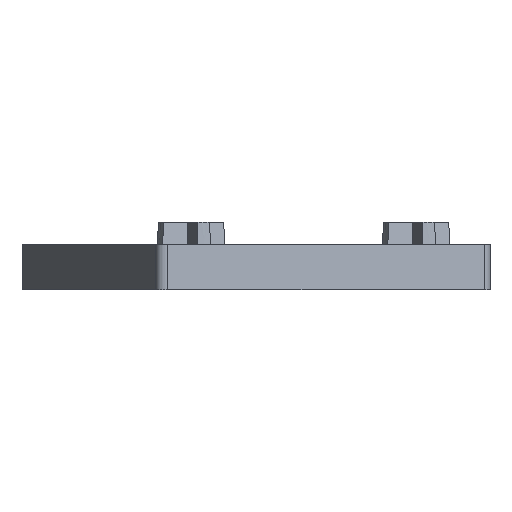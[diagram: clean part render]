
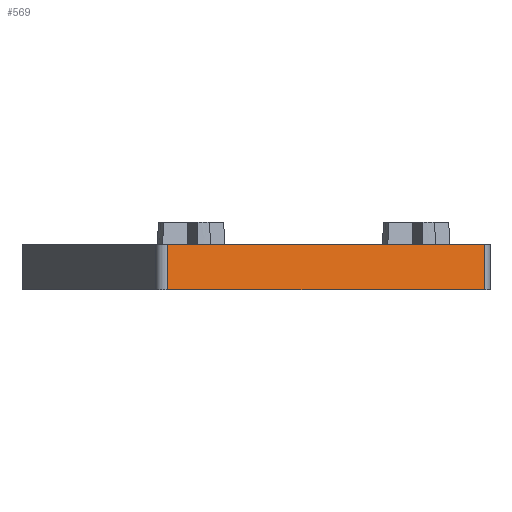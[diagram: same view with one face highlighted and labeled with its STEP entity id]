
A CAD part, left-side view. The second image highlights one B-rep face of the part: STEP entity #569.
In plain terms, the highlighted planar face has unit normal (-0.924, -0.383, 0).
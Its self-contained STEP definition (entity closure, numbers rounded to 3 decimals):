
#79 = VECTOR ( 'NONE', #866, 1000. ) ;
#87 = EDGE_CURVE ( 'NONE', #2082, #2113, #1471, .T. ) ;
#114 = EDGE_CURVE ( 'NONE', #928, #897, #1135, .T. ) ;
#134 = LINE ( 'NONE', #868, #2140 ) ;
#170 = ORIENTED_EDGE ( 'NONE', *, *, #1954, .T. ) ;
#256 = CARTESIAN_POINT ( 'NONE',  ( -22.031, -8.043, 0. ) ) ;
#312 = VECTOR ( 'NONE', #1298, 1000. ) ;
#369 = CARTESIAN_POINT ( 'NONE',  ( -36.572, 27.064, 5. ) ) ;
#559 = LINE ( 'NONE', #1267, #312 ) ;
#569 = ADVANCED_FACE ( 'NONE', ( #1005 ), #990, .T. ) ;
#768 = VECTOR ( 'NONE', #1831, 1000. ) ;
#866 = DIRECTION ( 'NONE',  ( 0.383, -0.924, 0. ) ) ;
#868 = CARTESIAN_POINT ( 'NONE',  ( -22.031, -8.043, 0. ) ) ;
#897 = VERTEX_POINT ( 'NONE', #256 ) ;
#928 = VERTEX_POINT ( 'NONE', #2325 ) ;
#954 = CARTESIAN_POINT ( 'NONE',  ( -22.031, -8.043, 5. ) ) ;
#990 = PLANE ( 'NONE',  #1852 ) ;
#1005 = FACE_OUTER_BOUND ( 'NONE', #1585, .T. ) ;
#1135 = LINE ( 'NONE', #2385, #79 ) ;
#1267 = CARTESIAN_POINT ( 'NONE',  ( -36.572, 27.064, 0. ) ) ;
#1298 = DIRECTION ( 'NONE',  ( 0., 0., -1. ) ) ;
#1319 = ORIENTED_EDGE ( 'NONE', *, *, #1547, .T. ) ;
#1471 = LINE ( 'NONE', #2203, #768 ) ;
#1547 = EDGE_CURVE ( 'NONE', #2082, #928, #559, .T. ) ;
#1585 = EDGE_LOOP ( 'NONE', ( #2101, #170, #1692, #1319 ) ) ;
#1692 = ORIENTED_EDGE ( 'NONE', *, *, #87, .F. ) ;
#1754 = DIRECTION ( 'NONE',  ( 0.383, -0.924, 0. ) ) ;
#1831 = DIRECTION ( 'NONE',  ( 0.383, -0.924, 0. ) ) ;
#1852 = AXIS2_PLACEMENT_3D ( 'NONE', #1936, #2099, #1754 ) ;
#1936 = CARTESIAN_POINT ( 'NONE',  ( -36.955, 27.988, 0. ) ) ;
#1954 = EDGE_CURVE ( 'NONE', #897, #2113, #134, .T. ) ;
#2082 = VERTEX_POINT ( 'NONE', #369 ) ;
#2099 = DIRECTION ( 'NONE',  ( -0.924, -0.383, 0. ) ) ;
#2101 = ORIENTED_EDGE ( 'NONE', *, *, #114, .T. ) ;
#2113 = VERTEX_POINT ( 'NONE', #954 ) ;
#2140 = VECTOR ( 'NONE', #2338, 1000. ) ;
#2203 = CARTESIAN_POINT ( 'NONE',  ( -36.955, 27.988, 5. ) ) ;
#2325 = CARTESIAN_POINT ( 'NONE',  ( -36.572, 27.064, 0. ) ) ;
#2338 = DIRECTION ( 'NONE',  ( 0., 0., 1. ) ) ;
#2385 = CARTESIAN_POINT ( 'NONE',  ( -36.955, 27.988, 0. ) ) ;
